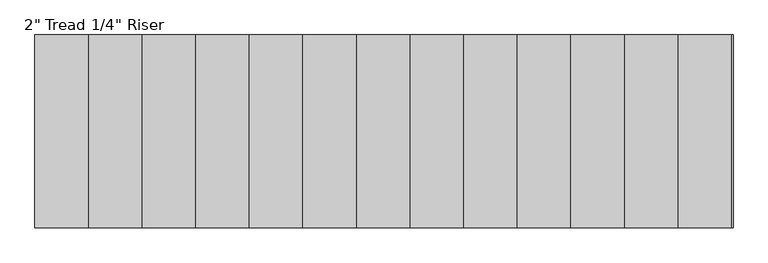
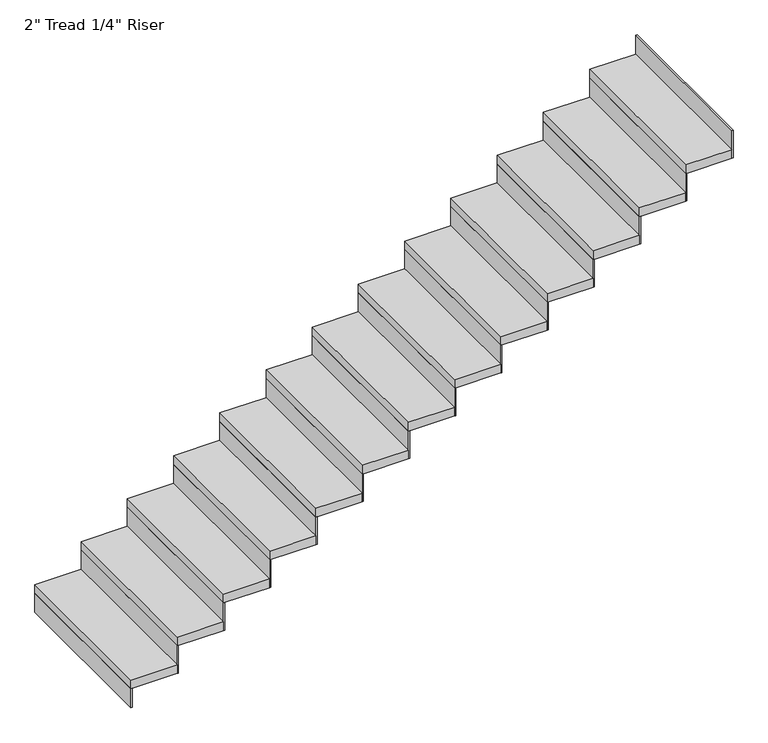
"""IFC4 building model written with IfcOpenShell, lengths in millimetres: stair flight geometry."""

from ifc_helpers import new_model, si_unit, frame, origin, origin_with_axes, place, context, project, spatial, polyline, outline, extrude, source, transform, mapped, element, save


def stair_flight_6ce74025(model_context):
    return source(origin(), model_context, "Body", "SweptSolid", [
        extrude(outline(polyline([(109712.2444894, -35451.4428514), (109705.8944894, -35451.4428514), (109705.8944894, -34537.0428514), (109712.2444894, -34537.0428514), (109712.2444894, -35451.4428514)])), origin_with_axes(), (0.0, 0.0, 1.0), 109.6210526),
        extrude(outline(polyline([(109959.8944894, -34537.0428514), (109959.8944894, -35451.4428514), (109705.8944894, -35451.4428514), (109705.8944894, -34537.0428514), (109959.8944894, -34537.0428514)])), frame((0.0, 0.0, 109.6210526), z_axis=(0.0, 0.0, 1.0), x_axis=(1.0, 0.0, 0.0)), (0.0, 0.0, 1.0), 50.8),
        extrude(outline(polyline([(109966.2444894, -35451.4428514), (109959.8944894, -35451.4428514), (109959.8944894, -34537.0428514), (109966.2444894, -34537.0428514), (109966.2444894, -35451.4428514)])), frame((0.0, 0.0, 109.6210526), z_axis=(0.0, 0.0, 1.0), x_axis=(1.0, 0.0, 0.0)), (0.0, 0.0, 1.0), 160.4210526),
        extrude(outline(polyline([(110213.8944894, -34537.0428514), (110213.8944894, -35451.4428514), (109959.8944894, -35451.4428514), (109959.8944894, -34537.0428514), (110213.8944894, -34537.0428514)])), frame((0.0, 0.0, 270.0421053), z_axis=(0.0, 0.0, 1.0), x_axis=(1.0, 0.0, 0.0)), (0.0, 0.0, 1.0), 50.8),
        extrude(outline(polyline([(110220.2444894, -35451.4428514), (110213.8944894, -35451.4428514), (110213.8944894, -34537.0428514), (110220.2444894, -34537.0428514), (110220.2444894, -35451.4428514)])), frame((0.0, 0.0, 270.0421053), z_axis=(0.0, 0.0, 1.0), x_axis=(1.0, 0.0, 0.0)), (0.0, 0.0, 1.0), 160.4210526),
        extrude(outline(polyline([(110467.8944894, -34537.0428514), (110467.8944894, -35451.4428514), (110213.8944894, -35451.4428514), (110213.8944894, -34537.0428514), (110467.8944894, -34537.0428514)])), frame((0.0, 0.0, 430.4631579), z_axis=(0.0, 0.0, 1.0), x_axis=(1.0, 0.0, 0.0)), (0.0, 0.0, 1.0), 50.8),
        extrude(outline(polyline([(110474.2444894, -35451.4428514), (110467.8944894, -35451.4428514), (110467.8944894, -34537.0428514), (110474.2444894, -34537.0428514), (110474.2444894, -35451.4428514)])), frame((0.0, 0.0, 430.4631579), z_axis=(0.0, 0.0, 1.0), x_axis=(1.0, 0.0, 0.0)), (0.0, 0.0, 1.0), 160.4210526),
        extrude(outline(polyline([(110721.8944894, -34537.0428514), (110721.8944894, -35451.4428514), (110467.8944894, -35451.4428514), (110467.8944894, -34537.0428514), (110721.8944894, -34537.0428514)])), frame((0.0, 0.0, 590.8842105), z_axis=(0.0, 0.0, 1.0), x_axis=(1.0, 0.0, 0.0)), (0.0, 0.0, 1.0), 50.8),
        extrude(outline(polyline([(110728.2444894, -35451.4428514), (110721.8944894, -35451.4428514), (110721.8944894, -34537.0428514), (110728.2444894, -34537.0428514), (110728.2444894, -35451.4428514)])), frame((0.0, 0.0, 590.8842105), z_axis=(0.0, 0.0, 1.0), x_axis=(1.0, 0.0, 0.0)), (0.0, 0.0, 1.0), 160.4210526),
        extrude(outline(polyline([(110975.8944894, -34537.0428514), (110975.8944894, -35451.4428514), (110721.8944894, -35451.4428514), (110721.8944894, -34537.0428514), (110975.8944894, -34537.0428514)])), frame((0.0, 0.0, 751.3052632), z_axis=(0.0, 0.0, 1.0), x_axis=(1.0, 0.0, 0.0)), (0.0, 0.0, 1.0), 50.8),
        extrude(outline(polyline([(110982.2444894, -35451.4428514), (110975.8944894, -35451.4428514), (110975.8944894, -34537.0428514), (110982.2444894, -34537.0428514), (110982.2444894, -35451.4428514)])), frame((0.0, 0.0, 751.3052632), z_axis=(0.0, 0.0, 1.0), x_axis=(1.0, 0.0, 0.0)), (0.0, 0.0, 1.0), 160.4210526),
        extrude(outline(polyline([(111229.8944894, -34537.0428514), (111229.8944894, -35451.4428514), (110975.8944894, -35451.4428514), (110975.8944894, -34537.0428514), (111229.8944894, -34537.0428514)])), frame((0.0, 0.0, 911.7263158), z_axis=(0.0, 0.0, 1.0), x_axis=(1.0, 0.0, 0.0)), (0.0, 0.0, 1.0), 50.8),
        extrude(outline(polyline([(111236.2444894, -35451.4428514), (111229.8944894, -35451.4428514), (111229.8944894, -34537.0428514), (111236.2444894, -34537.0428514), (111236.2444894, -35451.4428514)])), frame((0.0, 0.0, 911.7263158), z_axis=(0.0, 0.0, 1.0), x_axis=(1.0, 0.0, 0.0)), (0.0, 0.0, 1.0), 160.4210526),
        extrude(outline(polyline([(111483.8944894, -34537.0428514), (111483.8944894, -35451.4428514), (111229.8944894, -35451.4428514), (111229.8944894, -34537.0428514), (111483.8944894, -34537.0428514)])), frame((0.0, 0.0, 1072.1473684), z_axis=(0.0, 0.0, 1.0), x_axis=(1.0, 0.0, 0.0)), (0.0, 0.0, 1.0), 50.8),
        extrude(outline(polyline([(111490.2444894, -35451.4428514), (111483.8944894, -35451.4428514), (111483.8944894, -34537.0428514), (111490.2444894, -34537.0428514), (111490.2444894, -35451.4428514)])), frame((0.0, 0.0, 1072.1473684), z_axis=(0.0, 0.0, 1.0), x_axis=(1.0, 0.0, 0.0)), (0.0, 0.0, 1.0), 160.4210526),
        extrude(outline(polyline([(111737.8944894, -34537.0428514), (111737.8944894, -35451.4428514), (111483.8944894, -35451.4428514), (111483.8944894, -34537.0428514), (111737.8944894, -34537.0428514)])), frame((0.0, 0.0, 1232.5684211), z_axis=(0.0, 0.0, 1.0), x_axis=(1.0, 0.0, 0.0)), (0.0, 0.0, 1.0), 50.8),
        extrude(outline(polyline([(111744.2444894, -35451.4428514), (111737.8944894, -35451.4428514), (111737.8944894, -34537.0428514), (111744.2444894, -34537.0428514), (111744.2444894, -35451.4428514)])), frame((0.0, 0.0, 1232.5684211), z_axis=(0.0, 0.0, 1.0), x_axis=(1.0, 0.0, 0.0)), (0.0, 0.0, 1.0), 160.4210526),
        extrude(outline(polyline([(111991.8944894, -34537.0428514), (111991.8944894, -35451.4428514), (111737.8944894, -35451.4428514), (111737.8944894, -34537.0428514), (111991.8944894, -34537.0428514)])), frame((0.0, 0.0, 1392.9894737), z_axis=(0.0, 0.0, 1.0), x_axis=(1.0, 0.0, 0.0)), (0.0, 0.0, 1.0), 50.8),
        extrude(outline(polyline([(111998.2444894, -35451.4428514), (111991.8944894, -35451.4428514), (111991.8944894, -34537.0428514), (111998.2444894, -34537.0428514), (111998.2444894, -35451.4428514)])), frame((0.0, 0.0, 1392.9894737), z_axis=(0.0, 0.0, 1.0), x_axis=(1.0, 0.0, 0.0)), (0.0, 0.0, 1.0), 160.4210526),
        extrude(outline(polyline([(112245.8944894, -34537.0428514), (112245.8944894, -35451.4428514), (111991.8944894, -35451.4428514), (111991.8944894, -34537.0428514), (112245.8944894, -34537.0428514)])), frame((0.0, 0.0, 1553.4105263), z_axis=(0.0, 0.0, 1.0), x_axis=(1.0, 0.0, 0.0)), (0.0, 0.0, 1.0), 50.8),
        extrude(outline(polyline([(112252.2444894, -35451.4428514), (112245.8944894, -35451.4428514), (112245.8944894, -34537.0428514), (112252.2444894, -34537.0428514), (112252.2444894, -35451.4428514)])), frame((0.0, 0.0, 1553.4105263), z_axis=(0.0, 0.0, 1.0), x_axis=(1.0, 0.0, 0.0)), (0.0, 0.0, 1.0), 160.4210526),
        extrude(outline(polyline([(112499.8944894, -34537.0428514), (112499.8944894, -35451.4428514), (112245.8944894, -35451.4428514), (112245.8944894, -34537.0428514), (112499.8944894, -34537.0428514)])), frame((0.0, 0.0, 1713.8315789), z_axis=(0.0, 0.0, 1.0), x_axis=(1.0, 0.0, 0.0)), (0.0, 0.0, 1.0), 50.8),
        extrude(outline(polyline([(112506.2444894, -35451.4428514), (112499.8944894, -35451.4428514), (112499.8944894, -34537.0428514), (112506.2444894, -34537.0428514), (112506.2444894, -35451.4428514)])), frame((0.0, 0.0, 1713.8315789), z_axis=(0.0, 0.0, 1.0), x_axis=(1.0, 0.0, 0.0)), (0.0, 0.0, 1.0), 160.4210526),
        extrude(outline(polyline([(112753.8944894, -34537.0428514), (112753.8944894, -35451.4428514), (112499.8944894, -35451.4428514), (112499.8944894, -34537.0428514), (112753.8944894, -34537.0428514)])), frame((0.0, 0.0, 1874.2526316), z_axis=(0.0, 0.0, 1.0), x_axis=(1.0, 0.0, 0.0)), (0.0, 0.0, 1.0), 50.8),
        extrude(outline(polyline([(112760.2444894, -35451.4428514), (112753.8944894, -35451.4428514), (112753.8944894, -34537.0428514), (112760.2444894, -34537.0428514), (112760.2444894, -35451.4428514)])), frame((0.0, 0.0, 1874.2526316), z_axis=(0.0, 0.0, 1.0), x_axis=(1.0, 0.0, 0.0)), (0.0, 0.0, 1.0), 160.4210526),
        extrude(outline(polyline([(113014.2444894, -35451.4428514), (113007.8944894, -35451.4428514), (113007.8944894, -34537.0428514), (113014.2444894, -34537.0428514), (113014.2444894, -35451.4428514)])), frame((0.0, 0.0, 2034.6736842), z_axis=(0.0, 0.0, 1.0), x_axis=(1.0, 0.0, 0.0)), (0.0, 0.0, 1.0), 160.4210526),
        extrude(outline(polyline([(113007.8944894, -34537.0428514), (113007.8944894, -35451.4428514), (112753.8944894, -35451.4428514), (112753.8944894, -34537.0428514), (113007.8944894, -34537.0428514)])), frame((0.0, 0.0, 2034.6736842), z_axis=(0.0, 0.0, 1.0), x_axis=(1.0, 0.0, 0.0)), (0.0, 0.0, 1.0), 50.8),
    ])


if __name__ == "__main__":
    model = new_model("IFC4")
    model_context = context("Model", 3, world=origin())
    ifc_project = project(units=[si_unit("LENGTHUNIT", "METRE", prefix="MILLI")], contexts=[model_context])
    site = spatial("IfcSite", under=ifc_project)
    building = spatial("IfcBuilding", under=site)
    placement = place(None, origin())
    stair_flight_shape = stair_flight_6ce74025(model_context)
    element("IfcStairFlight", 1, ObjectType="2\" Tread 1/4\" Riser", at=placement, inside=building, context=model_context, shape_type="MappedRepresentation", body=[
        mapped(stair_flight_shape, transform((0.0, 0.0, 0.0), x_axis=(1.0, 0.0, 0.0), y_axis=(0.0, 1.0, 0.0), z_axis=(0.0, 0.0, 1.0))),
    ])
    save(model, "model.ifc")
